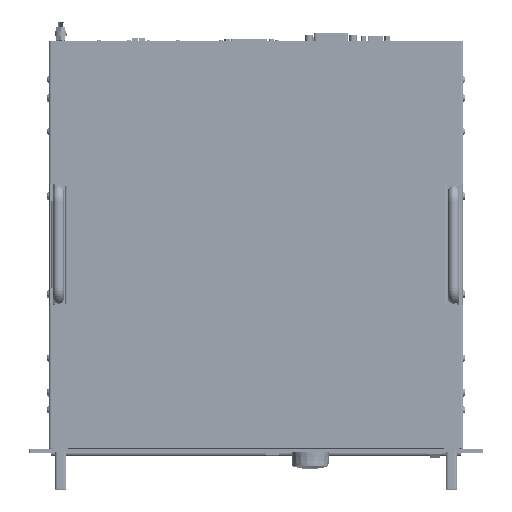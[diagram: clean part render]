
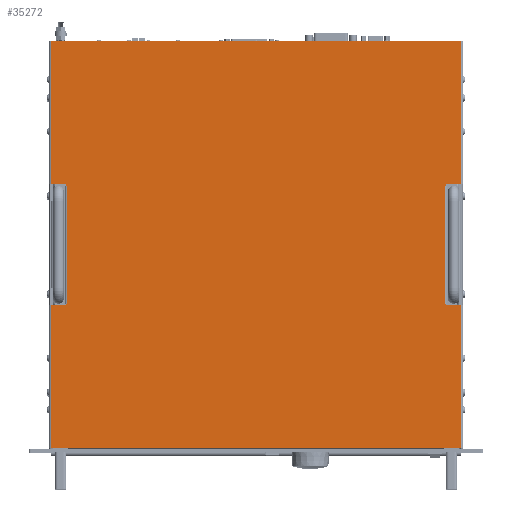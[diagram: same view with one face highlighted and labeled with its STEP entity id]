
A CAD part, top view. The second image highlights one B-rep face of the part: STEP entity #35272.
In plain terms, the highlighted planar face has unit normal (0, 0, 1).
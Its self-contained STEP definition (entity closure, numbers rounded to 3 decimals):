
#35272=ADVANCED_FACE('',(#77241),#77242,.F.);
#77241=FACE_OUTER_BOUND('',#155636,.T.);
#77242=PLANE('',#155637);
#155636=EDGE_LOOP('',(#257430,#257431,#257432,#257433,#257434,#257435,#257436,#257437,#257438,#257439,#257440,#257441,#257442,#257443,#257444,#257445,#257446,#257447,#257448,#257449));
#155637=AXIS2_PLACEMENT_3D('',#257450,#257451,#257452);
#257430=ORIENTED_EDGE('',*,*,#344797,.T.);
#257431=ORIENTED_EDGE('',*,*,#344817,.F.);
#257432=ORIENTED_EDGE('',*,*,#344818,.F.);
#257433=ORIENTED_EDGE('',*,*,#344461,.F.);
#257434=ORIENTED_EDGE('',*,*,#344783,.F.);
#257435=ORIENTED_EDGE('',*,*,#344446,.F.);
#257436=ORIENTED_EDGE('',*,*,#344772,.F.);
#257437=ORIENTED_EDGE('',*,*,#344819,.F.);
#257438=ORIENTED_EDGE('',*,*,#344815,.T.);
#257439=ORIENTED_EDGE('',*,*,#344810,.F.);
#257440=ORIENTED_EDGE('',*,*,#344807,.T.);
#257441=ORIENTED_EDGE('',*,*,#344820,.F.);
#257442=ORIENTED_EDGE('',*,*,#344748,.F.);
#257443=ORIENTED_EDGE('',*,*,#344436,.F.);
#257444=ORIENTED_EDGE('',*,*,#344737,.F.);
#257445=ORIENTED_EDGE('',*,*,#344456,.F.);
#257446=ORIENTED_EDGE('',*,*,#344821,.F.);
#257447=ORIENTED_EDGE('',*,*,#344822,.F.);
#257448=ORIENTED_EDGE('',*,*,#344794,.T.);
#257449=ORIENTED_EDGE('',*,*,#344802,.T.);
#257450=CARTESIAN_POINT('',(241.3,260.625,101.899));
#257451=DIRECTION('',(0.,0.,-1.0));
#257452=DIRECTION('',(1.0,0.,0.));
#344436=EDGE_CURVE('',#408379,#408381,#408382,.T.);
#344446=EDGE_CURVE('',#408397,#408399,#408400,.T.);
#344456=EDGE_CURVE('',#408415,#408417,#408418,.T.);
#344461=EDGE_CURVE('',#408424,#408426,#408427,.T.);
#344737=EDGE_CURVE('',#408417,#408379,#408857,.T.);
#344748=EDGE_CURVE('',#408381,#408872,#408873,.T.);
#344772=EDGE_CURVE('',#408905,#408397,#408907,.T.);
#344783=EDGE_CURVE('',#408399,#408424,#408922,.T.);
#344794=EDGE_CURVE('',#408933,#408936,#408938,.T.);
#344797=EDGE_CURVE('',#408943,#408940,#408944,.T.);
#344802=EDGE_CURVE('',#408936,#408943,#408949,.T.);
#344807=EDGE_CURVE('',#408955,#408953,#408956,.T.);
#344810=EDGE_CURVE('',#408955,#408959,#408960,.T.);
#344815=EDGE_CURVE('',#408965,#408959,#408967,.T.);
#344817=EDGE_CURVE('',#408969,#408940,#408970,.T.);
#344818=EDGE_CURVE('',#408426,#408969,#408971,.T.);
#344819=EDGE_CURVE('',#408965,#408905,#408972,.T.);
#344820=EDGE_CURVE('',#408872,#408953,#408973,.T.);
#344821=EDGE_CURVE('',#408974,#408415,#408975,.T.);
#344822=EDGE_CURVE('',#408933,#408974,#408976,.T.);
#408379=VERTEX_POINT('',#502925);
#408381=VERTEX_POINT('',#502927);
#408382=LINE('',#502928,#502929);
#408397=VERTEX_POINT('',#502947);
#408399=VERTEX_POINT('',#502949);
#408400=LINE('',#502950,#502951);
#408415=VERTEX_POINT('',#502969);
#408417=VERTEX_POINT('',#502971);
#408418=LINE('',#502972,#502973);
#408424=VERTEX_POINT('',#502980);
#408426=VERTEX_POINT('',#502982);
#408427=LINE('',#502983,#502984);
#408857=LINE('',#503535,#503536);
#408872=VERTEX_POINT('',#503556);
#408873=LINE('',#503557,#503558);
#408905=VERTEX_POINT('',#503604);
#408907=LINE('',#503607,#503608);
#408922=LINE('',#503628,#503629);
#408933=VERTEX_POINT('',#503644);
#408936=VERTEX_POINT('',#503648);
#408938=LINE('',#503650,#503651);
#408940=VERTEX_POINT('',#503653);
#408943=VERTEX_POINT('',#503657);
#408944=LINE('',#503658,#503659);
#408949=LINE('',#503664,#503665);
#408953=VERTEX_POINT('',#503670);
#408955=VERTEX_POINT('',#503673);
#408956=LINE('',#503674,#503675);
#408959=VERTEX_POINT('',#503678);
#408960=LINE('',#503679,#503680);
#408965=VERTEX_POINT('',#503685);
#408967=LINE('',#503688,#503689);
#408969=VERTEX_POINT('',#503691);
#408970=LINE('',#503692,#503693);
#408971=LINE('',#503694,#503695);
#408972=LINE('',#503696,#503697);
#408973=LINE('',#503698,#503699);
#408974=VERTEX_POINT('',#503700);
#408975=LINE('',#503701,#503702);
#408976=LINE('',#503703,#503704);
#502925=CARTESIAN_POINT('',(23.623,44.,101.899));
#502927=CARTESIAN_POINT('',(23.623,196.0,101.899));
#502928=CARTESIAN_POINT('',(23.623,190.313,101.899));
#502929=VECTOR('',#576747,1.0);
#502947=CARTESIAN_POINT('',(23.623,325.25,101.899));
#502949=CARTESIAN_POINT('',(23.623,477.25,101.899));
#502950=CARTESIAN_POINT('',(23.623,330.938,101.899));
#502951=VECTOR('',#576763,1.0);
#502969=CARTESIAN_POINT('',(458.977,196.0,101.899));
#502971=CARTESIAN_POINT('',(458.977,44.0,101.899));
#502972=CARTESIAN_POINT('',(458.977,190.313,101.899));
#502973=VECTOR('',#576779,1.0);
#502980=CARTESIAN_POINT('',(458.977,477.25,101.899));
#502982=CARTESIAN_POINT('',(458.977,325.25,101.899));
#502983=CARTESIAN_POINT('',(458.977,330.938,101.899));
#502984=VECTOR('',#576787,1.0);
#503535=CARTESIAN_POINT('',(461.727,44.0,101.899));
#503536=VECTOR('',#577173,1.0);
#503556=CARTESIAN_POINT('',(38.873,196.0,101.899));
#503557=CARTESIAN_POINT('',(20.873,196.0,101.899));
#503558=VECTOR('',#577191,1.0);
#503604=CARTESIAN_POINT('',(38.873,325.25,101.899));
#503607=CARTESIAN_POINT('',(38.873,325.25,101.899));
#503608=VECTOR('',#577219,1.0);
#503628=CARTESIAN_POINT('',(20.873,477.25,101.899));
#503629=VECTOR('',#577237,1.0);
#503644=CARTESIAN_POINT('',(443.727,198.0,101.899));
#503648=CARTESIAN_POINT('',(441.977,198.,101.899));
#503650=CARTESIAN_POINT('',(342.593,198.,101.899));
#503651=VECTOR('',#577249,1.0);
#503653=CARTESIAN_POINT('',(443.727,323.25,101.899));
#503657=CARTESIAN_POINT('',(441.977,323.25,101.899));
#503658=CARTESIAN_POINT('',(342.593,323.25,101.899));
#503659=VECTOR('',#577251,1.0);
#503664=CARTESIAN_POINT('',(441.977,260.625,101.899));
#503665=VECTOR('',#577261,1.0);
#503670=CARTESIAN_POINT('',(38.873,198.0,101.899));
#503673=CARTESIAN_POINT('',(40.623,198.,101.899));
#503674=CARTESIAN_POINT('',(140.007,198.,101.899));
#503675=VECTOR('',#577264,1.0);
#503678=CARTESIAN_POINT('',(40.623,323.25,101.899));
#503679=CARTESIAN_POINT('',(40.623,260.625,101.899));
#503680=VECTOR('',#577268,1.0);
#503685=CARTESIAN_POINT('',(38.873,323.25,101.899));
#503688=CARTESIAN_POINT('',(140.007,323.25,101.899));
#503689=VECTOR('',#577276,1.0);
#503691=CARTESIAN_POINT('',(443.727,325.25,101.899));
#503692=CARTESIAN_POINT('',(443.727,325.25,101.899));
#503693=VECTOR('',#577277,1.0);
#503694=CARTESIAN_POINT('',(461.727,325.25,101.899));
#503695=VECTOR('',#577278,1.0);
#503696=CARTESIAN_POINT('',(38.873,323.25,101.899));
#503697=VECTOR('',#577279,1.0);
#503698=CARTESIAN_POINT('',(38.873,196.0,101.899));
#503699=VECTOR('',#577280,1.0);
#503700=CARTESIAN_POINT('',(443.727,196.0,101.899));
#503701=CARTESIAN_POINT('',(443.727,196.0,101.899));
#503702=VECTOR('',#577281,1.0);
#503703=CARTESIAN_POINT('',(443.727,198.0,101.899));
#503704=VECTOR('',#577282,1.0);
#576747=DIRECTION('',(0.0,1.0,0.0));
#576763=DIRECTION('',(0.0,1.0,0.0));
#576779=DIRECTION('',(0.0,-1.0,0.0));
#576787=DIRECTION('',(0.0,-1.0,0.0));
#577173=DIRECTION('',(-1.0,0.0,0.0));
#577191=DIRECTION('',(1.0,0.0,0.0));
#577219=DIRECTION('',(-1.0,0.0,0.0));
#577237=DIRECTION('',(1.0,0.0,0.0));
#577249=DIRECTION('',(-1.0,0.0,0.0));
#577251=DIRECTION('',(1.0,0.0,0.0));
#577261=DIRECTION('',(0.0,1.0,0.0));
#577264=DIRECTION('',(-1.0,0.0,0.0));
#577268=DIRECTION('',(0.0,1.0,0.0));
#577276=DIRECTION('',(1.0,0.0,0.0));
#577277=DIRECTION('',(0.0,-1.0,0.0));
#577278=DIRECTION('',(-1.0,0.0,0.0));
#577279=DIRECTION('',(0.0,1.0,0.0));
#577280=DIRECTION('',(0.0,1.0,0.0));
#577281=DIRECTION('',(1.0,0.0,0.0));
#577282=DIRECTION('',(0.0,-1.0,0.0));
